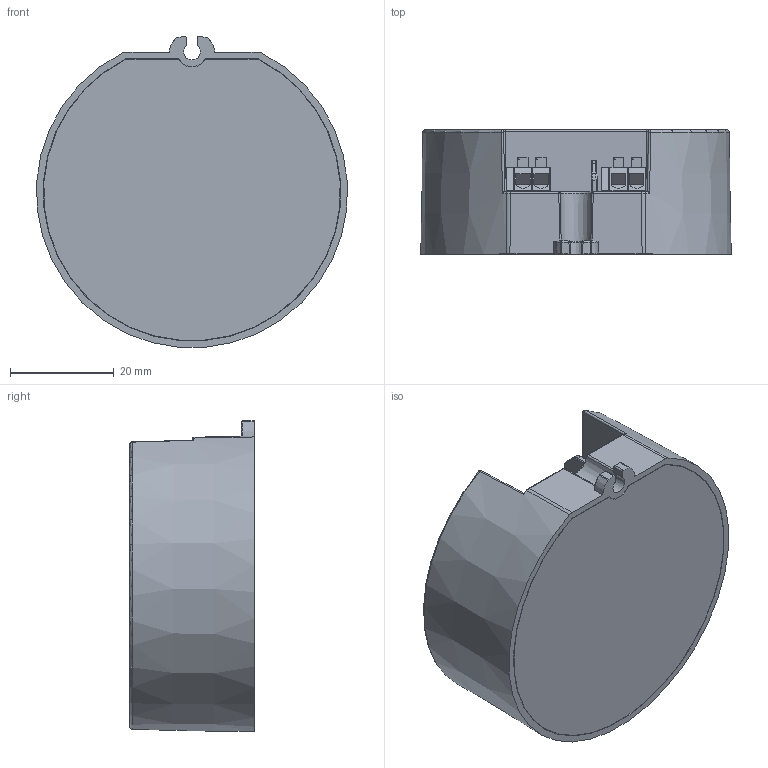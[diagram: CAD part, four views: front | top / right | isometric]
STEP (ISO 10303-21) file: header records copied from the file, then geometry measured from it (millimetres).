
FILE_DESCRIPTION((''),'2;1');
FILE_NAME('KT-158_ASM','2025-11-25T13:14:29',('Administrator'),(''),'CREO PARAMETRIC BY PTC INC, 2022484','CREO PARAMETRIC BY PTC INC, 2022484','');
FILE_SCHEMA(('CONFIG_CONTROL_DESIGN','SHAPE_APPEARANCE_LAYERS_GROUPS'));
Products named in the file (6): KT-158_SG; KT-158_XG; KT-158_PCB; WAFO_250_2P; BM_1; KT-158_ASM
Assembly tree (6 placements, depth 2):
  KT-158_ASM
    KT-158_SG
    KT-158_XG
    KT-158_PCB
    WAFO_250_2P  x2
    BM_1
Bounding box: 59.85 x 24 x 59.86 mm (x, y, z)
Volume: 17634.5 mm3; surface area: 28698.5 mm2
Topology: 8 solids, 8 shells, 3113 faces, 8656 edges, 5728 vertices
Faces by surface type: plane 2920, extrusion 62, cylinder 58, cone 34, bspline 26, torus 9, sphere 4
Entity records: 120802 total; most frequent: CARTESIAN_POINT 19173, ORIENTED_EDGE 16882, DIRECTION 14343, EDGE_CURVE 8441, VECTOR 8057, LINE 7995, PRESENTATION_STYLE_ASSIGNMENT 7989, STYLED_ITEM 7989
